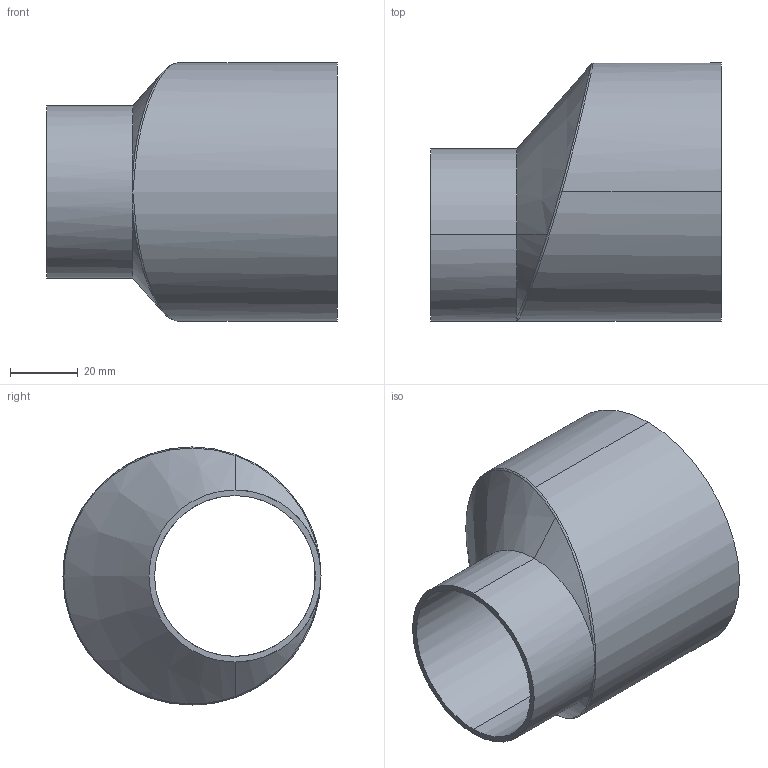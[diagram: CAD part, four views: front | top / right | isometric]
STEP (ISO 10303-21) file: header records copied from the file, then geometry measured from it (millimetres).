
FILE_DESCRIPTION (( 'STEP AP203' ), '1' );
FILE_NAME ('TE32SWW6L3.0X2.0.STEP', '2020-07-07T12:55:13', ( '' ), ( '' ), 'SwSTEP 2.0', 'SolidWorks 2018', '' );
FILE_SCHEMA (( 'CONFIG_CONTROL_DESIGN' ));
Length unit declared in the file: millimetre
Products named in the file (1): TE32SWW6L3.0X2.0
Bounding box: 85.72 x 76.2 x 76.2 mm (x, y, z)
Volume: 93779.2 mm3; surface area: 35118.5 mm2
Topology: 1 solids, 1 shells, 24 faces, 58 edges, 32 vertices
Faces by surface type: cylinder 8, cone 6, bspline 5, torus 3, plane 2
Entity records: 2146 total; most frequent: CARTESIAN_POINT 1569, ORIENTED_EDGE 108, DIRECTION 98, EDGE_CURVE 54, AXIS2_PLACEMENT_3D 43, VERTEX_POINT 32, EDGE_LOOP 26, ADVANCED_FACE 24
